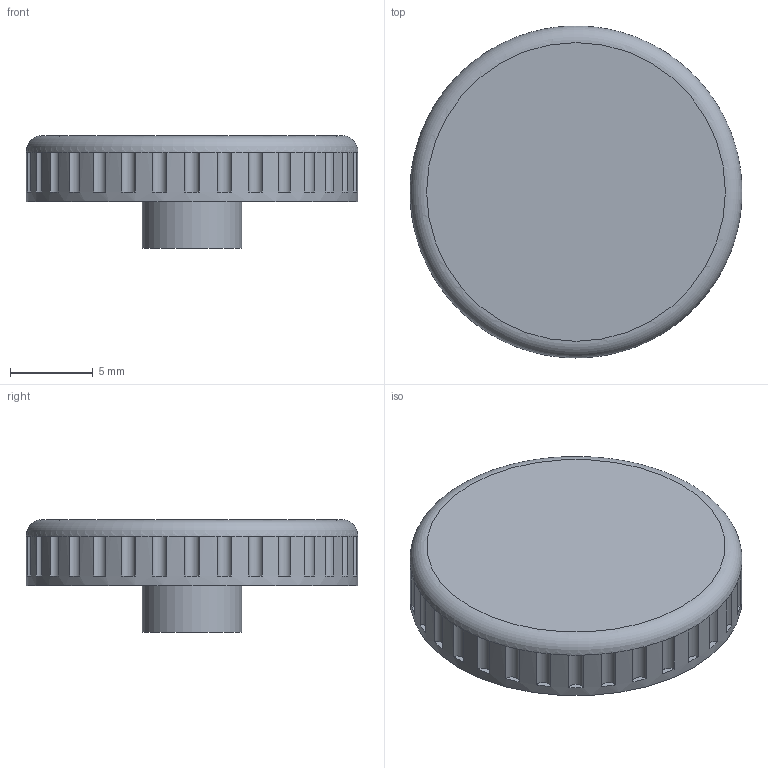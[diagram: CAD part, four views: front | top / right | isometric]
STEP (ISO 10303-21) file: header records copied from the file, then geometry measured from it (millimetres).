
FILE_DESCRIPTION(('Open CASCADE Model'),'2;1');
FILE_NAME('Open CASCADE Shape Model','2026-10-20T15:49:46',('Author'),( 'Open CASCADE'),'Open CASCADE STEP processor 7.8','Open CASCADE 7.8' ,'Unknown');
FILE_SCHEMA(('AUTOMOTIVE_DESIGN { 1 0 10303 214 1 1 1 1 }'));
Length unit declared in the file: millimetre
Products named in the file (1): Open CASCADE STEP translator 7.8 11
Bounding box: 20 x 20 x 6.8 mm (x, y, z)
Volume: 1288.5 mm3; surface area: 981.3 mm2
Topology: 1 solids, 1 shells, 104 faces, 236 edges, 136 vertices
Faces by surface type: plane 68, cylinder 35, torus 1
Full cylindrical faces by diameter (mm): 1.8 x1, 6 x1, 20 x1
Entity records: 6029 total; most frequent: CARTESIAN_POINT 1367, DIRECTION 909, ORIENTED_EDGE 472, PCURVE 472, DEFINITIONAL_REPRESENTATION 472, AXIS2_PLACEMENT_3D 274, LINE 273, VECTOR 273
